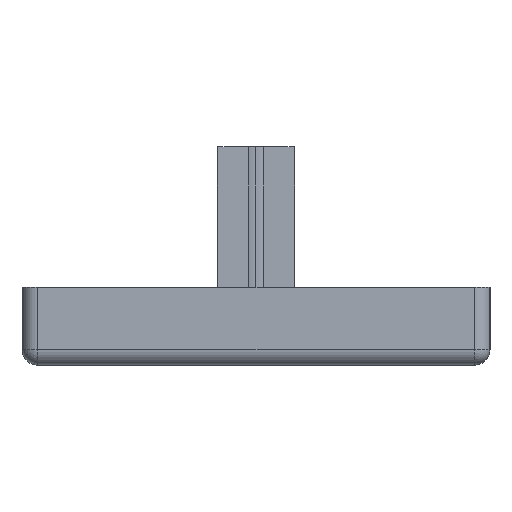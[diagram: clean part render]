
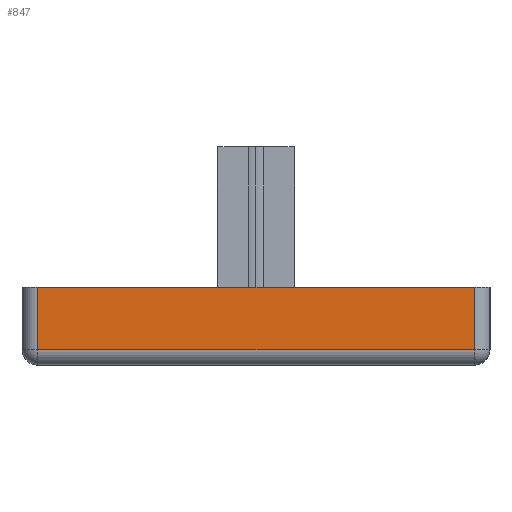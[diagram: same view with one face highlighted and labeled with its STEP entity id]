
A CAD part, left-side view. The second image highlights one B-rep face of the part: STEP entity #847.
In plain terms, the highlighted planar face has unit normal (-1, 0, 0).
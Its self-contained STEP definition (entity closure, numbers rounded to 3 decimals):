
#27 = ORIENTED_EDGE ( 'NONE', *, *, #678, .T. ) ;
#36 = EDGE_LOOP ( 'NONE', ( #821, #750, #1139, #27 ) ) ;
#82 = VERTEX_POINT ( 'NONE', #287 ) ;
#169 = EDGE_CURVE ( 'NONE', #1682, #82, #710, .T. ) ;
#189 = DIRECTION ( 'NONE',  ( 1., 0., 0. ) ) ;
#287 = CARTESIAN_POINT ( 'NONE',  ( -45., -14., 5. ) ) ;
#301 = LINE ( 'NONE', #1693, #1934 ) ;
#317 = DIRECTION ( 'NONE',  ( 0., -1., 0. ) ) ;
#547 = VECTOR ( 'NONE', #1740, 1000. ) ;
#603 = LINE ( 'NONE', #1886, #547 ) ;
#655 = EDGE_CURVE ( 'NONE', #1718, #1792, #665, .T. ) ;
#665 = LINE ( 'NONE', #772, #1411 ) ;
#678 = EDGE_CURVE ( 'NONE', #1682, #1718, #603, .T. ) ;
#710 = LINE ( 'NONE', #1875, #1504 ) ;
#750 = ORIENTED_EDGE ( 'NONE', *, *, #1793, .T. ) ;
#762 = CARTESIAN_POINT ( 'NONE',  ( -45., 14., 1. ) ) ;
#763 = DIRECTION ( 'NONE',  ( 0., -1., 0. ) ) ;
#772 = CARTESIAN_POINT ( 'NONE',  ( -45., -15., 1. ) ) ;
#821 = ORIENTED_EDGE ( 'NONE', *, *, #655, .T. ) ;
#847 = ADVANCED_FACE ( 'NONE', ( #1118 ), #1742, .F. ) ;
#1113 = CARTESIAN_POINT ( 'NONE',  ( -45., -15., 5. ) ) ;
#1118 = FACE_OUTER_BOUND ( 'NONE', #36, .T. ) ;
#1135 = AXIS2_PLACEMENT_3D ( 'NONE', #1113, #189, #1273 ) ;
#1139 = ORIENTED_EDGE ( 'NONE', *, *, #169, .F. ) ;
#1273 = DIRECTION ( 'NONE',  ( 0., 0., -1. ) ) ;
#1382 = CARTESIAN_POINT ( 'NONE',  ( -45., -14., 1. ) ) ;
#1411 = VECTOR ( 'NONE', #317, 1000. ) ;
#1504 = VECTOR ( 'NONE', #763, 1000. ) ;
#1682 = VERTEX_POINT ( 'NONE', #1701 ) ;
#1693 = CARTESIAN_POINT ( 'NONE',  ( -45., -14., 5. ) ) ;
#1701 = CARTESIAN_POINT ( 'NONE',  ( -45., 14., 5. ) ) ;
#1718 = VERTEX_POINT ( 'NONE', #762 ) ;
#1740 = DIRECTION ( 'NONE',  ( 0., 0., -1. ) ) ;
#1742 = PLANE ( 'NONE',  #1135 ) ;
#1792 = VERTEX_POINT ( 'NONE', #1382 ) ;
#1793 = EDGE_CURVE ( 'NONE', #1792, #82, #301, .T. ) ;
#1854 = DIRECTION ( 'NONE',  ( 0., 0., 1. ) ) ;
#1875 = CARTESIAN_POINT ( 'NONE',  ( -45., -15., 5. ) ) ;
#1886 = CARTESIAN_POINT ( 'NONE',  ( -45., 14., 5. ) ) ;
#1934 = VECTOR ( 'NONE', #1854, 1000. ) ;
